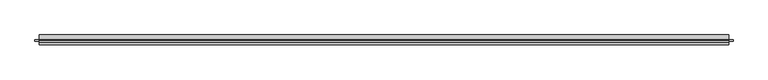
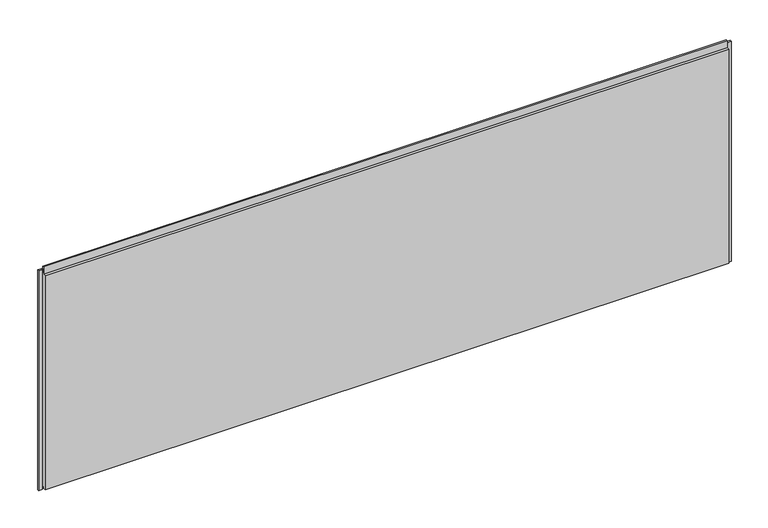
"""IFC4 building model written with IfcOpenShell, lengths in millimetres: plate geometry, Trimo_Qbiss Screen_Normal Panel-HORIZONTAL : HR - B."""

import ifcopenshell
import ifcopenshell.guid

model = None  # the IFC model being written
_history = None  # IfcOwnerHistory: only IFC2X3 demands one
_inside = {}  # id of a spatial element -> (the spatial element, [elements in it])
_under = {}  # id of a project, library or spatial element -> (it, [spatial elements below it])
_declared = {}  # id of a project -> (the project, [libraries it declares])
_typed = {}  # id of a type object -> (the type object, [elements of that type])
_made_of = {}  # id of a material, layer set ... -> (it, [elements and type objects made of it])


def new_model(schema):
    """Start an empty IFC model of exactly this schema.

    Asked for "IFC4X3", IfcOpenShell would pick the latest addendum, in which some entities
    have other attributes; the version numbers below select the first issue.
    IFC2X3 requires an IfcOwnerHistory on every rooted entity: one is made here for all.
    """
    global model, _history
    if schema == "IFC4X3":
        model = ifcopenshell.file(schema_version=(4, 3, 0, 0))
    else:
        model = ifcopenshell.file(schema=schema)
    _inside.clear()
    _under.clear()
    _declared.clear()
    _typed.clear()
    _made_of.clear()
    _history = None
    if model.schema == "IFC2X3":
        org = make("IfcOrganization", Name="unknown")
        user = make(
            "IfcPersonAndOrganization",
            ThePerson=make("IfcPerson", FamilyName="unknown"),
            TheOrganization=org,
        )
        app = make(
            "IfcApplication",
            ApplicationDeveloper=org,
            Version="unknown",
            ApplicationFullName="unknown",
            ApplicationIdentifier="unknown",
        )
        _history = make(
            "IfcOwnerHistory",
            OwningUser=user,
            OwningApplication=app,
            ChangeAction="ADDED",
            CreationDate=0,
        )
    return model


def make(cls, **values):
    """One entity of the class cls with the attributes given. An attribute that is None is left unset."""
    return model.create_entity(
        cls, **{name: value for name, value in values.items() if value is not None}
    )


def rooted(cls, **values):
    """An entity with a GlobalId (a new one), such as an element, a storey or a relation."""
    return make(cls, GlobalId=ifcopenshell.guid.new(), OwnerHistory=_history, **values)


def si_unit(unit_type, name, prefix=None):
    """IfcSIUnit, for example si_unit("LENGTHUNIT", "METRE", prefix="MILLI")."""
    return make("IfcSIUnit", UnitType=unit_type, Prefix=prefix, Name=name)


def assignment(units):
    """IfcUnitAssignment: the units of a project."""
    return None if units is None else make("IfcUnitAssignment", Units=units)


def point(xyz):
    """IfcCartesianPoint."""
    return None if xyz is None else make("IfcCartesianPoint", Coordinates=xyz)


def direction(xyz):
    """IfcDirection."""
    return None if xyz is None else make("IfcDirection", DirectionRatios=xyz)


def frame(location, z_axis=None, x_axis=None):
    """IfcAxis2Placement3D, a coordinate frame: its origin and axes. An axis left out is left unset."""
    return make(
        "IfcAxis2Placement3D",
        Location=point(location),
        Axis=direction(z_axis),
        RefDirection=direction(x_axis),
    )


def origin():
    """The frame at (0, 0, 0) with its axes left unset."""
    return frame((0.0, 0.0, 0.0))


def place(relative_to, where):
    """IfcLocalPlacement: puts the frame where relative to a parent placement (None: the world)."""
    return make(
        "IfcLocalPlacement", PlacementRelTo=relative_to, RelativePlacement=where
    )


def context(
    kind, dimensions, precision=None, world=None, true_north=None, identifier=None
):
    """IfcGeometricRepresentationContext, for example the 3D "Model" context."""
    return make(
        "IfcGeometricRepresentationContext",
        ContextIdentifier=identifier,
        ContextType=kind,
        CoordinateSpaceDimension=dimensions,
        Precision=precision,
        WorldCoordinateSystem=world,
        TrueNorth=true_north,
    )


def project(units=None, contexts=None):
    """IfcProject with its units and contexts."""
    return rooted(
        "IfcProject",
        Name="project",
        RepresentationContexts=contexts,
        UnitsInContext=assignment(units),
    )


def spatial(cls, under=None, at=None, **own):
    """A site, building, storey or space (cls), placed at a placement, below another one or the project."""
    s = rooted(cls, ObjectPlacement=at, **own)
    if under is not None:
        _under.setdefault(under.id(), (under, []))[1].append(s)
    return s


def polyline(points):
    """IfcPolyline through the points."""
    return make("IfcPolyline", Points=[point(p) for p in points])


def outline(outer, holes=None, kind="AREA"):
    """IfcArbitraryClosedProfileDef: a profile drawn as a closed curve; with holes, ...WithVoids."""
    if holes is None:
        return make("IfcArbitraryClosedProfileDef", ProfileType=kind, OuterCurve=outer)
    return make(
        "IfcArbitraryProfileDefWithVoids",
        ProfileType=kind,
        OuterCurve=outer,
        InnerCurves=holes,
    )


def extrude(swept, where, along, depth):
    """IfcExtrudedAreaSolid: the profile swept, set in the frame where, extruded along a direction by depth."""
    return make(
        "IfcExtrudedAreaSolid",
        SweptArea=swept,
        Position=where,
        ExtrudedDirection=direction(along),
        Depth=depth,
    )


def shape(context_of_items, identifier, shape_type, items):
    """IfcShapeRepresentation: the items that make up one representation, for example the "Body"."""
    return make(
        "IfcShapeRepresentation",
        ContextOfItems=context_of_items,
        RepresentationIdentifier=identifier,
        RepresentationType=shape_type,
        Items=items,
    )


def source(mapping_origin, context_of_items, identifier, shape_type, items):
    """IfcRepresentationMap: a shape defined once, which mapped items show again and again."""
    return make(
        "IfcRepresentationMap",
        MappingOrigin=mapping_origin,
        MappedRepresentation=shape(context_of_items, identifier, shape_type, items),
    )


def transform(
    local_origin,
    x_axis=None,
    y_axis=None,
    z_axis=None,
    scale=None,
    scale2=None,
    scale3=None,
    uniform=True,
):
    """IfcCartesianTransformationOperator3D, or its non-uniform kind. x_axis, y_axis, z_axis: its Axis1, 2, 3."""
    if uniform:
        return make(
            "IfcCartesianTransformationOperator3D",
            Axis1=direction(x_axis),
            Axis2=direction(y_axis),
            LocalOrigin=point(local_origin),
            Scale=scale,
            Axis3=direction(z_axis),
        )
    return make(
        "IfcCartesianTransformationOperator3DnonUniform",
        Axis1=direction(x_axis),
        Axis2=direction(y_axis),
        LocalOrigin=point(local_origin),
        Scale=scale,
        Axis3=direction(z_axis),
        Scale2=scale2,
        Scale3=scale3,
    )


def mapped(mapping_source, mapping_target):
    """IfcMappedItem: shows the shape of a source again, moved by a transform."""
    return make(
        "IfcMappedItem", MappingSource=mapping_source, MappingTarget=mapping_target
    )


def made_of(thing, what):
    """Note that an element or type object is made of a material, layer set ...; save() writes the relation."""
    if what is not None:
        _made_of.setdefault(what.id(), (what, []))[1].append(thing)
    return thing


def element(
    cls,
    number,
    at=None,
    inside=None,
    cuts=None,
    type_object=None,
    material=None,
    context=None,
    identifier="Body",
    shape_type=None,
    held_by="IfcProductDefinitionShape",
    body=None,
    shapes=None,
    **own,
):
    """One element of the class cls, such as IfcWall. Its Tag is "e" and its number.

    at: its placement. inside: the storey or other place that contains it. cuts: it is an
    opening in that element (IfcRelVoidsElement). A single representation is given by context,
    identifier, shape_type and body (its items); several are given by shapes. held_by: the class
    of the entity that holds the representations. save() writes the other relations.
    """
    e = rooted(cls, Tag="e%d" % number, ObjectPlacement=at, **own)
    if body is not None:
        shapes = [shape(context, identifier, shape_type, body)]
    if shapes is not None:
        e.Representation = make(held_by, Representations=shapes)
    if inside is not None:
        _inside.setdefault(inside.id(), (inside, []))[1].append(e)
    if cuts is not None:
        rooted(
            "IfcRelVoidsElement", RelatingBuildingElement=cuts, RelatedOpeningElement=e
        )
    if type_object is not None:
        _typed.setdefault(type_object.id(), (type_object, []))[1].append(e)
    return made_of(e, material)


def aggregate(whole, parts):
    """IfcRelAggregates: a whole, such as a stair, and the parts it consists of."""
    return rooted("IfcRelAggregates", RelatingObject=whole, RelatedObjects=parts)


def save(model, path):
    """Write the relations noted so far, then the file.

    IfcRelAggregates (storeys below a building ...), IfcRelContainedInSpatialStructure (elements
    in a storey), IfcRelDefinesByType, IfcRelAssociatesMaterial and IfcRelDeclares: one each for
    every whole, place, type object, material and project.
    """
    for whole, parts in _under.values():
        aggregate(whole, parts)
    for where, things in _inside.values():
        rooted(
            "IfcRelContainedInSpatialStructure",
            RelatedElements=things,
            RelatingStructure=where,
        )
    for kind, things in _typed.values():
        rooted("IfcRelDefinesByType", RelatedObjects=things, RelatingType=kind)
    for what, things in _made_of.values():
        rooted("IfcRelAssociatesMaterial", RelatedObjects=things, RelatingMaterial=what)
    for by, libraries in _declared.values():
        rooted("IfcRelDeclares", RelatingContext=by, RelatedDefinitions=libraries)
    model.write(path)


def plate_606b7d7a(model_context):
    return source(origin(), model_context, "Body", "SweptSolid", [
        extrude(outline(polyline([(-1723.0, 76.5978162), (-1723.0, 67.8978162), (-1742.0, 67.8978162), (-1742.0, 76.5978162), (-1723.0, 76.5978162)])), frame((0.0, 0.0, -1.0), z_axis=(0.0, 0.0, 1.0), x_axis=(1.0, 0.0, 0.0)), (0.0, 0.0, 1.0), 1170.0),
        extrude(outline(polyline([(1723.0, 67.8978162), (1723.0, 76.5978162), (1742.0, 76.5978162), (1742.0, 67.8978162), (1723.0, 67.8978162)])), frame((0.0, 0.0, -1.0), z_axis=(0.0, 0.0, 1.0), x_axis=(1.0, 0.0, 0.0)), (0.0, 0.0, 1.0), 1170.0),
        extrude(outline(polyline([(1720.0, 76.0), (1720.0, 71.0), (-1720.0, 71.0), (-1720.0, 76.0), (1720.0, 76.0)])), frame((0.0, 0.0, 1148.0), z_axis=(0.0, 0.0, 1.0), x_axis=(1.0, 0.0, 0.0)), (0.0, 0.0, 1.0), 21.0),
        extrude(outline(polyline([(71.0, 1147.0), (100.0, 1147.0), (100.0, 0.0), (72.0, 0.0), (72.0, 15.5), (62.0, 15.5), (62.0, 7.0), (50.0, 7.0), (50.0, 1147.0), (63.0, 1147.0), (63.0, 1184.5), (71.0, 1184.5), (71.0, 1147.0)])), frame((-1720.0, 0.0, 0.0), z_axis=(1.0, 0.0, 0.0), x_axis=(0.0, 1.0, 0.0)), (0.0, 0.0, 1.0), 3440.0),
    ])


if __name__ == "__main__":
    model = new_model("IFC4")
    model_context = context("Model", 3, world=origin())
    ifc_project = project(units=[si_unit("LENGTHUNIT", "METRE", prefix="MILLI")], contexts=[model_context])
    site = spatial("IfcSite", under=ifc_project)
    building = spatial("IfcBuilding", under=site)
    placement = place(None, origin())
    plate_shape = plate_606b7d7a(model_context)
    element("IfcPlate", 1, ObjectType="Trimo_Qbiss Screen_Normal Panel-HORIZONTAL : HR - B", at=placement, inside=building, context=model_context, shape_type="MappedRepresentation", body=[
        mapped(plate_shape, transform((0.0, 0.0, 0.0), x_axis=(1.0, 0.0, 0.0), y_axis=(0.0, 1.0, 0.0), z_axis=(0.0, 0.0, 1.0))),
    ])
    save(model, "model.ifc")
